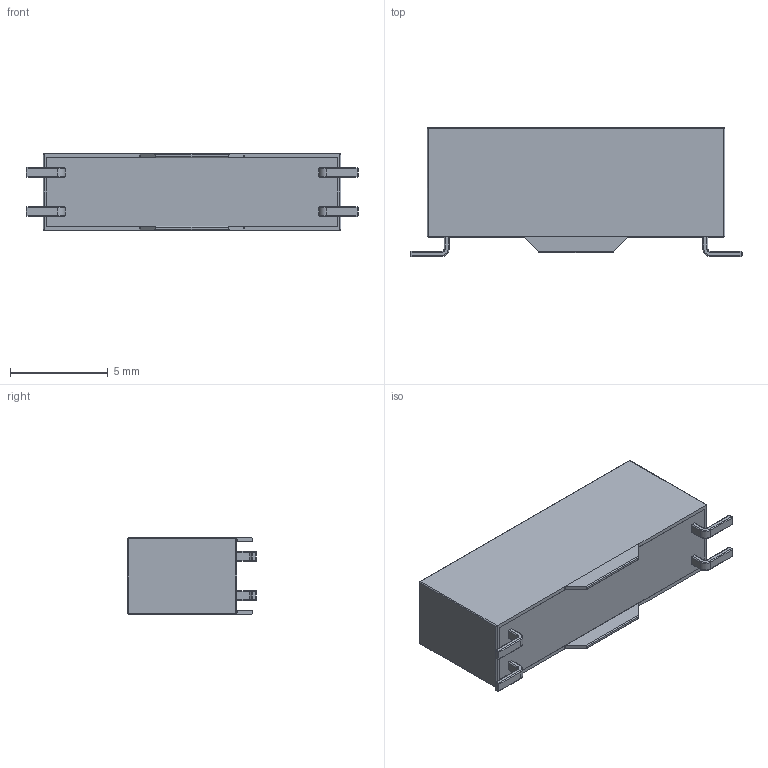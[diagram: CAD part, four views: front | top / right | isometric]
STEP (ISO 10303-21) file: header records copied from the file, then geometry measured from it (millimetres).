
FILE_DESCRIPTION (( 'STEP AP203' ), '1' );
FILE_NAME ('200-1-A.STEP', '2010-06-29T11:28:32', ( ' ' ), ( '' ), 'SwSTEP 2.0', 'SolidWorks 2009', '' );
FILE_SCHEMA (( 'CONFIG_CONTROL_DESIGN' ));
Length unit declared in the file: inch
Products named in the file (4): 200-1-A internal; 200-1-A Shell; 200 series pin; 200-1-A
Assembly tree (6 placements, depth 2):
  200-1-A
    200 series pin  x4
    200-1-A Shell
    200-1-A internal
Bounding box: 17 x 6.6 x 3.9 mm (x, y, z)
Volume: 335.7 mm3; surface area: 863 mm2
Topology: 6 solids, 6 shells, 421 faces, 1038 edges, 644 vertices
Faces by surface type: plane 236, cylinder 96, bspline 53, sphere 20, torus 16
Entity records: 13596 total; most frequent: CARTESIAN_POINT 5736, ORIENTED_EDGE 1616, DIRECTION 1314, EDGE_CURVE 808, VECTOR 606, LINE 606, VERTEX_POINT 524, EDGE_LOOP 354
